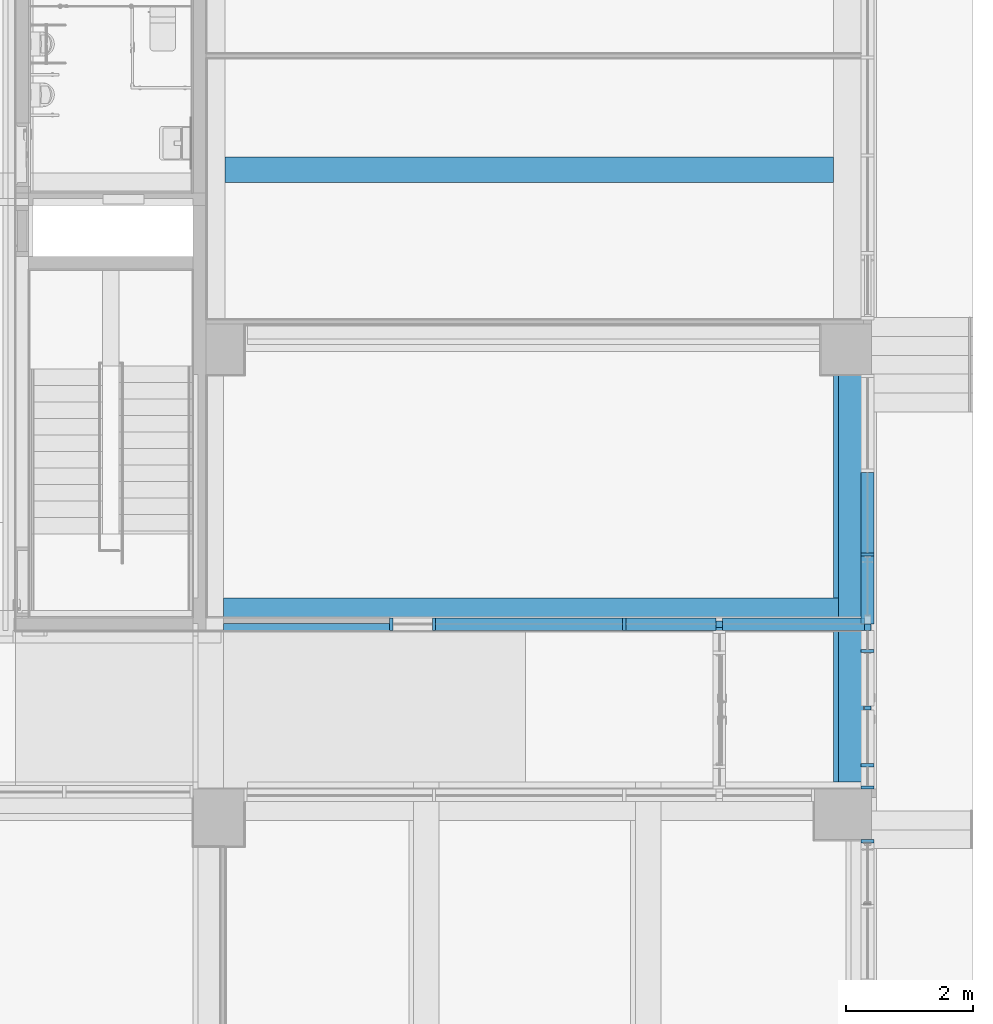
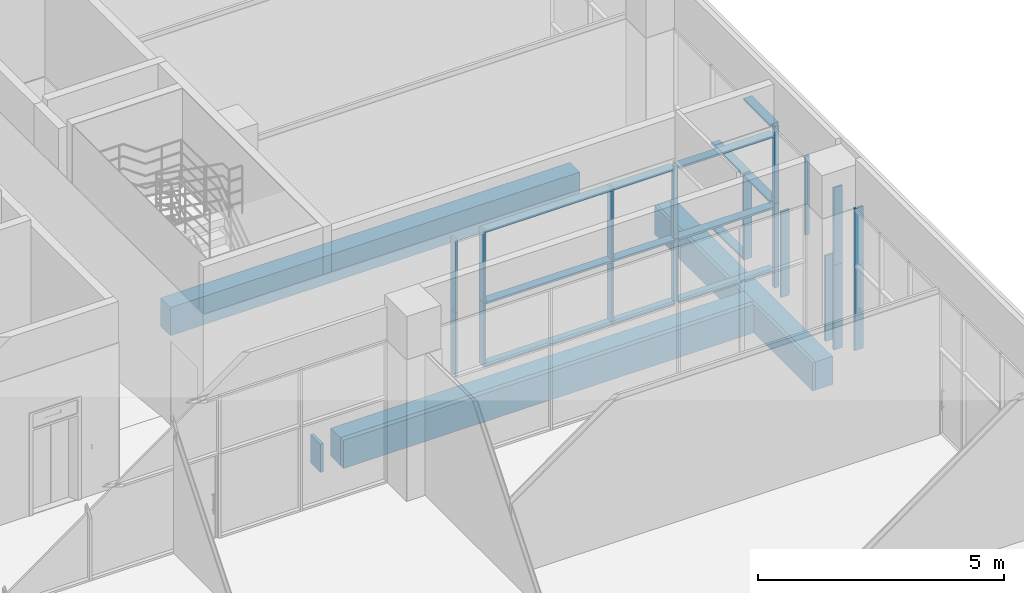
# One storey, part 13 of 100: 31 members, 5 beams, 3 elements without a shape of their own.
"""IFC2X3 building model written with IfcOpenShell, lengths in millimetres."""

from ifc_helpers import new_model, entity, si_unit, converted_unit, derived_unit, direction, frame, frame_2d, origin, origin_2d_with_axis, place, context, subcontext, project, spatial, rectangle, extrude, source, transform, mapped, material, type_object, type_shapes, element, aggregate, save


model = new_model("IFC2X3")

# Units and contexts
model_context = context("Model", 3, precision=0.01, world=origin(), true_north=direction((6.123031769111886e-17, 1.0)))
body_context = subcontext(model_context, "Body", "Model", "MODEL_VIEW")
ifc_project = project(units=[si_unit("LENGTHUNIT", "METRE", prefix="MILLI"), si_unit("AREAUNIT", "SQUARE_METRE"), si_unit("VOLUMEUNIT", "CUBIC_METRE"), converted_unit("PLANEANGLEUNIT", "DEGREE", entity("IfcRatioMeasure", 0.017453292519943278), si_unit("PLANEANGLEUNIT", "RADIAN"), dimensions=[0, 0, 0, 0, 0, 0, 0]), si_unit("MASSUNIT", "GRAM", prefix="KILO"), derived_unit("MASSDENSITYUNIT", [(si_unit("MASSUNIT", "GRAM", prefix="KILO"), 1), (si_unit("LENGTHUNIT", "METRE"), -3)]), derived_unit("MOMENTOFINERTIAUNIT", [(si_unit("LENGTHUNIT", "METRE"), 4)]), si_unit("TIMEUNIT", "SECOND"), si_unit("FREQUENCYUNIT", "HERTZ"), si_unit("THERMODYNAMICTEMPERATUREUNIT", "DEGREE_CELSIUS"), derived_unit("THERMALTRANSMITTANCEUNIT", [(si_unit("MASSUNIT", "GRAM", prefix="KILO"), 1), (si_unit("THERMODYNAMICTEMPERATUREUNIT", "KELVIN"), -1), (si_unit("TIMEUNIT", "SECOND"), -3)]), derived_unit("VOLUMETRICFLOWRATEUNIT", [(si_unit("LENGTHUNIT", "METRE"), 3), (si_unit("TIMEUNIT", "SECOND"), -1)]), derived_unit("MASSFLOWRATEUNIT", [(si_unit("MASSUNIT", "GRAM", prefix="KILO"), 1), (si_unit("TIMEUNIT", "SECOND"), -1)]), derived_unit("ROTATIONALFREQUENCYUNIT", [(si_unit("TIMEUNIT", "SECOND"), -1)]), si_unit("ELECTRICCURRENTUNIT", "AMPERE"), si_unit("ELECTRICVOLTAGEUNIT", "VOLT"), si_unit("POWERUNIT", "WATT"), si_unit("FORCEUNIT", "NEWTON", prefix="KILO"), si_unit("ILLUMINANCEUNIT", "LUX"), si_unit("LUMINOUSFLUXUNIT", "LUMEN"), si_unit("LUMINOUSINTENSITYUNIT", "CANDELA"), derived_unit("USERDEFINED", [(si_unit("MASSUNIT", "GRAM", prefix="KILO"), -1), (si_unit("LENGTHUNIT", "METRE"), -2), (si_unit("TIMEUNIT", "SECOND"), 3), (si_unit("LUMINOUSFLUXUNIT", "LUMEN"), 1)]), derived_unit("SOUNDPOWERUNIT", [(si_unit("MASSUNIT", "GRAM", prefix="KILO"), 1), (si_unit("LENGTHUNIT", "METRE"), 2), (si_unit("TIMEUNIT", "SECOND"), -3)]), derived_unit("SOUNDPRESSUREUNIT", [(si_unit("MASSUNIT", "GRAM", prefix="KILO"), 1), (si_unit("LENGTHUNIT", "METRE"), -1), (si_unit("TIMEUNIT", "SECOND"), -2)]), derived_unit("LINEARVELOCITYUNIT", [(si_unit("LENGTHUNIT", "METRE"), 1), (si_unit("TIMEUNIT", "SECOND"), -1)]), si_unit("PRESSUREUNIT", "PASCAL"), derived_unit("USERDEFINED", [(si_unit("LENGTHUNIT", "METRE"), -2), (si_unit("MASSUNIT", "GRAM", prefix="KILO"), 1), (si_unit("TIMEUNIT", "SECOND"), -2)]), derived_unit("LINEARFORCEUNIT", [(si_unit("MASSUNIT", "GRAM", prefix="KILO"), 1), (si_unit("LENGTHUNIT", "METRE"), 1), (si_unit("TIMEUNIT", "SECOND"), -2), (si_unit("LENGTHUNIT", "METRE"), -1)]), derived_unit("PLANARFORCEUNIT", [(si_unit("MASSUNIT", "GRAM", prefix="KILO"), 1), (si_unit("LENGTHUNIT", "METRE"), 1), (si_unit("TIMEUNIT", "SECOND"), -2), (si_unit("LENGTHUNIT", "METRE"), -2)])], contexts=[model_context])

# Site, building, storey
site_placement = place(None, frame((-14167.972527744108, -657.2125860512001, 0.0)))
site = spatial("IfcSite", under=ifc_project, at=site_placement, Name="Default", CompositionType="ELEMENT")
building_placement = place(site_placement, origin())
building = spatial("IfcBuilding", under=site, at=building_placement, Name="Sample Building", CompositionType="ELEMENT")
storey_placement = place(building_placement, origin())
storey = spatial("IfcBuildingStorey", under=building, at=storey_placement, Name="지상 1층", CompositionType="ELEMENT", Elevation=0.0)

# Curtain wall, member
curtain_wall_type = type_object("IfcCurtainWallType", Name="커튼월:CW112-스테인리스 스틸 커튼월", PredefinedType="NOTDEFINED")
curtain_wall_1_placement = place(storey_placement, origin())
curtain_wall_1 = element("IfcCurtainWall", 1, at=curtain_wall_1_placement, inside=storey, type_object=curtain_wall_type, Name="커튼월:CW112-스테인리스 스틸 커튼월", ObjectType="커튼월:CW112-스테인리스 스틸 커튼월")
ifc_material_1 = material(Name="<Unnamed>")
member_type_1 = type_object("IfcMemberType", Name="직사각형 멀리언:CW200-직사각형 멀리언 50x200mm", PredefinedType="MULLION", material=ifc_material_1)
shared_shape_1 = source(origin(), body_context, "Body", "SweptSolid", [
    extrude(rectangle(XDim=200.0, YDim=50.0, at=origin_2d_with_axis()), frame((-25.0, 0.0, -2100.0), z_axis=(0.0, 0.0, 1.0), x_axis=(0.0, -1.0, 0.0)), (0.0, 0.0, 1.0), 2100.0),
])
type_shapes(member_type_1, [shared_shape_1])
member_1_placement = place(curtain_wall_1_placement, frame((51405.4638289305, 12257.213038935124, 80.0), z_axis=(0.0, 0.0, -1.0), x_axis=(0.0, 1.0, 0.0)))
member_1 = element("IfcMember", 2, at=member_1_placement, type_object=member_type_1, material=ifc_material_1, Name="직사각형 멀리언:CW200-직사각형 멀리언 50x200mm", ObjectType="직사각형 멀리언:CW200-직사각형 멀리언 50x200mm", context=body_context, shape_type="MappedRepresentation", body=[
    mapped(shared_shape_1, transform((0.0, 0.0, 0.0), scale=1.0)),
])

curtain_wall_2_placement = place(storey_placement, origin())
curtain_wall_2 = element("IfcCurtainWall", 3, at=curtain_wall_2_placement, inside=storey, type_object=curtain_wall_type, Name="커튼월:CW112-스테인리스 스틸 커튼월", ObjectType="커튼월:CW112-스테인리스 스틸 커튼월")
member_type_2 = type_object("IfcMemberType", Name="직사각형 멀리언:CW200-직사각형 멀리언 50x200mm", PredefinedType="MULLION", material=ifc_material_1)
shared_shape_2 = source(origin(), body_context, "Body", "SweptSolid", [
    extrude(rectangle(XDim=200.0, YDim=50.0, at=origin_2d_with_axis()), frame((0.0, 0.0, -2100.0), z_axis=(0.0, 0.0, 1.0), x_axis=(0.0, -1.0, 0.0)), (0.0, 0.0, 1.0), 2100.0),
])
type_shapes(member_type_2, [shared_shape_2])
member_2_placement = place(curtain_wall_2_placement, frame((51405.46382893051, 16757.17771234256, -420.0), z_axis=(0.0, 0.0, -1.0), x_axis=(0.0, 1.0, 0.0)))
member_2 = element("IfcMember", 4, at=member_2_placement, type_object=member_type_2, material=ifc_material_1, Name="직사각형 멀리언:CW200-직사각형 멀리언 50x200mm", ObjectType="직사각형 멀리언:CW200-직사각형 멀리언 50x200mm", context=body_context, shape_type="MappedRepresentation", body=[
    mapped(shared_shape_2, transform((0.0, 0.0, 0.0), scale=1.0)),
])

# Member
member_type_3 = type_object("IfcMemberType", Name="직사각형 멀리언:CW200-직사각형 멀리언 50x200mm", PredefinedType="MULLION", material=ifc_material_1)
shared_shape_3 = source(origin(), body_context, "Body", "SweptSolid", [
    extrude(rectangle(XDim=200.0, YDim=50.0, at=origin_2d_with_axis()), frame((-25.0, 0.0, -1420.0), z_axis=(0.0, 0.0, 1.0), x_axis=(0.0, -1.0, 0.0)), (0.0, 0.0, 1.0), 1420.0000000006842),
])
type_shapes(member_type_3, [shared_shape_3])
member_3_placement = place(curtain_wall_1_placement, frame((51405.4638289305, 12257.213038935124, 2180.0), z_axis=(0.0, 0.0, -1.0), x_axis=(0.0, 1.0, 0.0)))
member_3 = element("IfcMember", 5, at=member_3_placement, type_object=member_type_3, material=ifc_material_1, Name="직사각형 멀리언:CW200-직사각형 멀리언 50x200mm", ObjectType="직사각형 멀리언:CW200-직사각형 멀리언 50x200mm", context=body_context, shape_type="MappedRepresentation", body=[
    mapped(shared_shape_3, transform((0.0, 0.0, 0.0), scale=1.0)),
])

aggregate(curtain_wall_1, [member_1, member_3])

member_type_4 = type_object("IfcMemberType", Name="직사각형 멀리언:CW200-직사각형 멀리언 50x200mm", PredefinedType="MULLION", material=ifc_material_1)
shared_shape_4 = source(origin(), body_context, "Body", "SweptSolid", [
    extrude(rectangle(XDim=200.0, YDim=50.0, at=origin_2d_with_axis()), frame((-25.0, 0.0, -2100.0), z_axis=(0.0, 0.0, 1.0), x_axis=(0.0, -1.0, 0.0)), (0.0, 0.0, 1.0), 2099.9999999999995),
])
type_shapes(member_type_4, [shared_shape_4])
member_4_placement = place(curtain_wall_2_placement, frame((51405.46379814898, 13057.212383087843, 1680.0), z_axis=(0.0, 0.0, 1.0), x_axis=(0.0, -1.0, 0.0)))
member_4 = element("IfcMember", 6, at=member_4_placement, type_object=member_type_4, material=ifc_material_1, Name="직사각형 멀리언:CW200-직사각형 멀리언 50x200mm", ObjectType="직사각형 멀리언:CW200-직사각형 멀리언 50x200mm", context=body_context, shape_type="MappedRepresentation", body=[
    mapped(shared_shape_4, transform((0.0, 0.0, 0.0), scale=1.0)),
])

member_type_5 = type_object("IfcMemberType", Name="직사각형 멀리언:CW200-직사각형 멀리언 50x200mm", PredefinedType="MULLION", material=ifc_material_1)
shared_shape_5 = source(origin(), body_context, "Body", "SweptSolid", [
    extrude(rectangle(XDim=200.0, YDim=50.0, at=origin_2d_with_axis()), frame((-25.0, 0.0, -1075.0), z_axis=(0.0, 0.0, 1.0), x_axis=(0.0, -1.0, 0.0)), (0.0, 0.0, 1.0), 1074.9999999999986),
])
type_shapes(member_type_5, [shared_shape_5])
member_5_placement = place(curtain_wall_2_placement, frame((51405.46382893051, 16732.17771234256, 3600.0), z_axis=(0.0, 1.0, 0.0), x_axis=(0.0, 0.0, 1.0)))
member_5 = element("IfcMember", 7, at=member_5_placement, type_object=member_type_5, material=ifc_material_1, Name="직사각형 멀리언:CW200-직사각형 멀리언 50x200mm", ObjectType="직사각형 멀리언:CW200-직사각형 멀리언 50x200mm", context=body_context, shape_type="MappedRepresentation", body=[
    mapped(shared_shape_5, transform((0.0, 0.0, 0.0), scale=1.0)),
])

member_type_6 = type_object("IfcMemberType", Name="직사각형 멀리언:CW200-직사각형 멀리언 50x200mm", PredefinedType="MULLION", material=ifc_material_1)
shared_shape_6 = source(origin(), body_context, "Body", "SweptSolid", [
    extrude(rectangle(XDim=200.0, YDim=50.0, at=origin_2d_with_axis()), frame((0.0, 0.0, -1075.0), z_axis=(0.0, 0.0, 1.0), x_axis=(0.0, -1.0, 0.0)), (0.0, 0.0, 1.0), 1074.9999999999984),
])
type_shapes(member_type_6, [shared_shape_6])
member_6_placement = place(curtain_wall_2_placement, frame((51405.46382893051, 16732.17771234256, 1680.0), z_axis=(0.0, 1.0, 0.0), x_axis=(0.0, 0.0, 1.0)))
member_6 = element("IfcMember", 8, at=member_6_placement, type_object=member_type_6, material=ifc_material_1, Name="직사각형 멀리언:CW200-직사각형 멀리언 50x200mm", ObjectType="직사각형 멀리언:CW200-직사각형 멀리언 50x200mm", context=body_context, shape_type="MappedRepresentation", body=[
    mapped(shared_shape_6, transform((0.0, 0.0, 0.0), scale=1.0)),
])

member_type_7 = type_object("IfcMemberType", Name="직사각형 멀리언:CW200-직사각형 멀리언 50x200mm", PredefinedType="MULLION", material=ifc_material_1)
shared_shape_7 = source(origin(), body_context, "Body", "SweptSolid", [
    extrude(rectangle(XDim=200.0, YDim=50.0, at=origin_2d_with_axis()), frame((-25.0, 0.0, -1920.0), z_axis=(0.0, 0.0, 1.0), x_axis=(0.0, -1.0, 0.0)), (0.0, 0.0, 1.0), 1920.0000000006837),
])
type_shapes(member_type_7, [shared_shape_7])
member_7_placement = place(curtain_wall_2_placement, frame((51405.46382893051, 13057.212383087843, 3600.0), z_axis=(0.0, 0.0, 1.0), x_axis=(0.0, -1.0, 0.0)))
member_7 = element("IfcMember", 9, at=member_7_placement, type_object=member_type_7, material=ifc_material_1, Name="직사각형 멀리언:CW200-직사각형 멀리언 50x200mm", ObjectType="직사각형 멀리언:CW200-직사각형 멀리언 50x200mm", context=body_context, shape_type="MappedRepresentation", body=[
    mapped(shared_shape_7, transform((0.0, 0.0, 0.0), scale=1.0)),
])

member_type_8 = type_object("IfcMemberType", Name="직사각형 멀리언:CW200-직사각형 멀리언 50x200mm", PredefinedType="MULLION", material=ifc_material_1)
shared_shape_8 = source(origin(), body_context, "Body", "SweptSolid", [
    extrude(rectangle(XDim=200.0, YDim=50.0, at=origin_2d_with_axis()), frame((0.0, 0.0, -2125.0), z_axis=(0.0, 0.0, 1.0), x_axis=(0.0, -1.0, 0.0)), (0.0, 0.0, 1.0), 2125.0),
])
type_shapes(member_type_8, [shared_shape_8])
member_8_placement = place(curtain_wall_2_placement, frame((51405.46382893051, 13432.212383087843, -420.0), z_axis=(0.0, 0.0, -1.0), x_axis=(0.0, 1.0, 0.0)))
member_8 = element("IfcMember", 10, at=member_8_placement, type_object=member_type_8, material=ifc_material_1, Name="직사각형 멀리언:CW200-직사각형 멀리언 50x200mm", ObjectType="직사각형 멀리언:CW200-직사각형 멀리언 50x200mm", context=body_context, shape_type="MappedRepresentation", body=[
    mapped(shared_shape_8, transform((0.0, 0.0, 0.0), scale=1.0)),
])

member_9_placement = place(curtain_wall_2_placement, frame((51405.46382893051, 15232.212383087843, -420.0), z_axis=(0.0, 0.0, -1.0), x_axis=(0.0, 1.0, 0.0)))
member_9 = element("IfcMember", 11, at=member_9_placement, type_object=member_type_8, material=ifc_material_1, Name="직사각형 멀리언:CW200-직사각형 멀리언 50x200mm", ObjectType="직사각형 멀리언:CW200-직사각형 멀리언 50x200mm", context=body_context, shape_type="MappedRepresentation", body=[
    mapped(shared_shape_8, transform((0.0, 0.0, 0.0), scale=1.0)),
])

member_type_9 = type_object("IfcMemberType", Name="직사각형 멀리언:CW200-직사각형 멀리언 100 x 100mm", PredefinedType="MULLION", material=ifc_material_1)
shared_shape_9 = source(origin(), body_context, "Body", "SweptSolid", [
    extrude(rectangle(XDim=100.0, YDim=100.0, at=origin_2d_with_axis()), frame((0.0, 0.0, -2100.0), z_axis=(0.0, 0.0, 1.0), x_axis=(0.0, -1.0, 0.0)), (0.0, 0.0, 1.0), 2100.0),
])
type_shapes(member_type_9, [shared_shape_9])
member_10_placement = place(curtain_wall_2_placement, frame((51405.46382893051, 15607.177712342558, -420.0), z_axis=(0.0, 0.0, -1.0), x_axis=(0.0, 1.0, 0.0)))
member_10 = element("IfcMember", 12, at=member_10_placement, type_object=member_type_9, material=ifc_material_1, Name="직사각형 멀리언:CW200-직사각형 멀리언 100 x 100mm", ObjectType="직사각형 멀리언:CW200-직사각형 멀리언 100 x 100mm", context=body_context, shape_type="MappedRepresentation", body=[
    mapped(shared_shape_9, transform((0.0, 0.0, 0.0), scale=1.0)),
])

member_type_10 = type_object("IfcMemberType", Name="직사각형 멀리언:CW200-직사각형 멀리언 50x200mm", PredefinedType="MULLION", material=ifc_material_1)
shared_shape_10 = source(origin(), body_context, "Body", "SweptSolid", [
    extrude(rectangle(XDim=200.0, YDim=50.0, at=origin_2d_with_axis()), frame((-25.0, 0.0, -1270.0), z_axis=(0.0, 0.0, 1.0), x_axis=(0.0, -1.0, 0.0)), (0.0, 0.0, 1.0), 1269.9999999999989),
])
type_shapes(member_type_10, [shared_shape_10])
member_11_placement = place(curtain_wall_2_placement, frame((51405.46382893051, 16782.17771234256, -420.0), z_axis=(0.0, -1.0, 0.0), x_axis=(0.0, 0.0, -1.0)))
member_11 = element("IfcMember", 13, at=member_11_placement, type_object=member_type_10, material=ifc_material_1, Name="직사각형 멀리언:CW200-직사각형 멀리언 50x200mm", ObjectType="직사각형 멀리언:CW200-직사각형 멀리언 50x200mm", context=body_context, shape_type="MappedRepresentation", body=[
    mapped(shared_shape_10, transform((0.0, 0.0, 0.0), scale=1.0)),
])

member_type_11 = type_object("IfcMemberType", Name="직사각형 멀리언:CW200-직사각형 멀리언 50x200mm", PredefinedType="MULLION", material=ifc_material_1)
shared_shape_11 = source(origin(), body_context, "Body", "SweptSolid", [
    extrude(rectangle(XDim=200.0, YDim=50.0, at=origin_2d_with_axis()), frame((0.0, 0.0, -1270.0), z_axis=(0.0, 0.0, 1.0), x_axis=(0.0, -1.0, 0.0)), (0.0, 0.0, 1.0), 1269.9999999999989),
])
type_shapes(member_type_11, [shared_shape_11])
member_12_placement = place(curtain_wall_2_placement, frame((51405.46382893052, 18052.177712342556, 1680.0), z_axis=(0.0, 1.0, 0.0), x_axis=(0.0, 0.0, 1.0)))
member_12 = element("IfcMember", 14, at=member_12_placement, type_object=member_type_11, material=ifc_material_1, Name="직사각형 멀리언:CW200-직사각형 멀리언 50x200mm", ObjectType="직사각형 멀리언:CW200-직사각형 멀리언 50x200mm", context=body_context, shape_type="MappedRepresentation", body=[
    mapped(shared_shape_11, transform((0.0, 0.0, 0.0), scale=1.0)),
])

member_type_12 = type_object("IfcMemberType", Name="직사각형 멀리언:CW200-직사각형 멀리언 60 x 100mm", PredefinedType="MULLION", material=ifc_material_1)
shared_shape_12 = source(origin(), body_context, "Body", "SweptSolid", [
    extrude(rectangle(XDim=100.0, YDim=60.0, at=origin_2d_with_axis()), frame((0.0, 0.0, -1945.0), z_axis=(0.0, 0.0, 1.0), x_axis=(0.0, -1.0, 0.0)), (0.0, 0.0, 1.0), 1945.000000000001),
])
type_shapes(member_type_12, [shared_shape_12])
member_13_placement = place(curtain_wall_2_placement, frame((51405.46382893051, 14332.212383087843, 1655.0), z_axis=(0.0, 0.0, -1.0), x_axis=(0.0, 1.0, 0.0)))
member_13 = element("IfcMember", 15, at=member_13_placement, type_object=member_type_12, material=ifc_material_1, Name="직사각형 멀리언:CW200-직사각형 멀리언 60 x 100mm", ObjectType="직사각형 멀리언:CW200-직사각형 멀리언 60 x 100mm", context=body_context, shape_type="MappedRepresentation", body=[
    mapped(shared_shape_12, transform((0.0, 0.0, 0.0), scale=1.0)),
])

member_type_13 = type_object("IfcMemberType", Name="직사각형 멀리언:CW200-직사각형 멀리언 100 x 100mm", PredefinedType="MULLION", material=ifc_material_1)
shared_shape_13 = source(origin(), body_context, "Body", "SweptSolid", [
    extrude(rectangle(XDim=100.0, YDim=100.0, at=origin_2d_with_axis()), frame((0.0, 0.0, -1920.0), z_axis=(0.0, 0.0, 1.0), x_axis=(0.0, -1.0, 0.0)), (0.0, 0.0, 1.0), 1920.0000000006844),
])
type_shapes(member_type_13, [shared_shape_13])
member_14_placement = place(curtain_wall_2_placement, frame((51405.46382893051, 15607.177712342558, 1680.0), z_axis=(0.0, 0.0, -1.0), x_axis=(0.0, 1.0, 0.0)))
member_14 = element("IfcMember", 16, at=member_14_placement, type_object=member_type_13, material=ifc_material_1, Name="직사각형 멀리언:CW200-직사각형 멀리언 100 x 100mm", ObjectType="직사각형 멀리언:CW200-직사각형 멀리언 100 x 100mm", context=body_context, shape_type="MappedRepresentation", body=[
    mapped(shared_shape_13, transform((0.0, 0.0, 0.0), scale=1.0)),
])

aggregate(curtain_wall_2, [member_7, member_8, member_9, member_10, member_5, member_11, member_2, member_4, member_6, member_12, member_13, member_14])

# Curtain wall, members
curtain_wall_3_placement = place(storey_placement, origin())
curtain_wall_3 = element("IfcCurtainWall", 17, at=curtain_wall_3_placement, inside=storey, type_object=curtain_wall_type, Name="커튼월:CW112-스테인리스 스틸 커튼월", ObjectType="커튼월:CW112-스테인리스 스틸 커튼월")
member_type_14 = type_object("IfcMemberType", Name="직사각형 멀리언:CW200-직사각형 멀리언 50x200mm", PredefinedType="MULLION", material=ifc_material_1)
shared_shape_14 = source(origin(), body_context, "Body", "SweptSolid", [
    extrude(rectangle(XDim=200.0, YDim=50.0, at=origin_2d_with_axis()), frame((-25.0, 0.0, -2950.0), z_axis=(0.0, 0.0, 1.0), x_axis=(0.0, -1.0, 0.0)), (0.0, 0.0, 1.0), 2950.0000000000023),
])
type_shapes(member_type_14, [shared_shape_14])
member_15_placement = place(curtain_wall_3_placement, frame((44592.972491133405, 15657.19487839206, 3380.0), z_axis=(-1.0, 0.0, 0.0), x_axis=(0.0, 0.0, 1.0)))
member_15 = element("IfcMember", 18, at=member_15_placement, type_object=member_type_14, material=ifc_material_1, Name="직사각형 멀리언:CW200-직사각형 멀리언 50x200mm", ObjectType="직사각형 멀리언:CW200-직사각형 멀리언 50x200mm", context=body_context, shape_type="MappedRepresentation", body=[
    mapped(shared_shape_14, transform((0.0, 0.0, 0.0), scale=1.0)),
])
member_type_15 = type_object("IfcMemberType", Name="직사각형 멀리언:CW200-직사각형 멀리언 50x200mm", PredefinedType="MULLION", material=ifc_material_1)
shared_shape_15 = source(origin(), body_context, "Body", "SweptSolid", [
    extrude(rectangle(XDim=200.0, YDim=50.0, at=origin_2d_with_axis()), frame((-25.0, 0.0, -1425.0), z_axis=(0.0, 0.0, 1.0), x_axis=(0.0, -1.0, 0.0)), (0.0, 0.0, 1.0), 1424.9999999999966),
])
type_shapes(member_type_15, [shared_shape_15])
member_16_placement = place(curtain_wall_3_placement, frame((47592.972491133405, 15657.194878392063, 3380.0), z_axis=(-1.0, 0.0, 0.0), x_axis=(0.0, 0.0, 1.0)))
member_16 = element("IfcMember", 19, at=member_16_placement, type_object=member_type_15, material=ifc_material_1, Name="직사각형 멀리언:CW200-직사각형 멀리언 50x200mm", ObjectType="직사각형 멀리언:CW200-직사각형 멀리언 50x200mm", context=body_context, shape_type="MappedRepresentation", body=[
    mapped(shared_shape_15, transform((0.0, 0.0, 0.0), scale=1.0)),
])
member_type_16 = type_object("IfcMemberType", Name="직사각형 멀리언:CW200-직사각형 멀리언 50x200mm", PredefinedType="MULLION", material=ifc_material_1)
shared_shape_16 = source(origin(), body_context, "Body", "SweptSolid", [
    extrude(rectangle(XDim=200.0, YDim=50.0, at=origin_2d_with_axis()), frame((0.0, 0.0, -1425.0), z_axis=(0.0, 0.0, 1.0), x_axis=(0.0, -1.0, 0.0)), (0.0, 0.0, 1.0), 1424.9999999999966),
])
type_shapes(member_type_16, [shared_shape_16])
member_17_placement = place(curtain_wall_3_placement, frame((47592.972491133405, 15657.194878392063, 1580.0), z_axis=(-1.0, 0.0, 0.0), x_axis=(0.0, 0.0, 1.0)))
member_17 = element("IfcMember", 20, at=member_17_placement, type_object=member_type_16, material=ifc_material_1, Name="직사각형 멀리언:CW200-직사각형 멀리언 50x200mm", ObjectType="직사각형 멀리언:CW200-직사각형 멀리언 50x200mm", context=body_context, shape_type="MappedRepresentation", body=[
    mapped(shared_shape_16, transform((0.0, 0.0, 0.0), scale=1.0)),
])
member_type_17 = type_object("IfcMemberType", Name="직사각형 멀리언:CW200-직사각형 멀리언 50x200mm", PredefinedType="MULLION", material=ifc_material_1)
shared_shape_17 = source(origin(), body_context, "Body", "SweptSolid", [
    extrude(rectangle(XDim=200.0, YDim=50.0, at=origin_2d_with_axis()), frame((0.0, 0.0, -2950.0), z_axis=(0.0, 0.0, 1.0), x_axis=(0.0, -1.0, 0.0)), (0.0, 0.0, 1.0), 2950.0000000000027),
])
type_shapes(member_type_17, [shared_shape_17])
member_18_placement = place(curtain_wall_3_placement, frame((44592.972491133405, 15657.19487839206, 1580.0), z_axis=(-1.0, 0.0, 0.0), x_axis=(0.0, 0.0, 1.0)))
member_18 = element("IfcMember", 21, at=member_18_placement, type_object=member_type_17, material=ifc_material_1, Name="직사각형 멀리언:CW200-직사각형 멀리언 50x200mm", ObjectType="직사각형 멀리언:CW200-직사각형 멀리언 50x200mm", context=body_context, shape_type="MappedRepresentation", body=[
    mapped(shared_shape_17, transform((0.0, 0.0, 0.0), scale=1.0)),
])
member_type_18 = type_object("IfcMemberType", Name="직사각형 멀리언:CW200-직사각형 멀리언 50x200mm", PredefinedType="MULLION", material=ifc_material_1)
shared_shape_18 = source(origin(), body_context, "Body", "SweptSolid", [
    extrude(rectangle(XDim=200.0, YDim=50.0, at=origin_2d_with_axis()), frame((-25.0, 0.0, -2950.0), z_axis=(0.0, 0.0, 1.0), x_axis=(0.0, -1.0, 0.0)), (0.0, 0.0, 1.0), 2950.0000000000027),
])
type_shapes(member_type_18, [shared_shape_18])
member_19_placement = place(curtain_wall_3_placement, frame((47542.9724911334, 15657.194878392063, 0.0), z_axis=(1.0, 0.0, 0.0), x_axis=(0.0, 0.0, -1.0)))
member_19 = element("IfcMember", 22, at=member_19_placement, type_object=member_type_18, material=ifc_material_1, Name="직사각형 멀리언:CW200-직사각형 멀리언 50x200mm", ObjectType="직사각형 멀리언:CW200-직사각형 멀리언 50x200mm", context=body_context, shape_type="MappedRepresentation", body=[
    mapped(shared_shape_18, transform((0.0, 0.0, 0.0), scale=1.0)),
])
member_type_19 = type_object("IfcMemberType", Name="직사각형 멀리언:CW200-직사각형 멀리언 50x200mm", PredefinedType="MULLION", material=ifc_material_1)
shared_shape_19 = source(origin(), body_context, "Body", "SweptSolid", [
    extrude(rectangle(XDim=200.0, YDim=50.0, at=origin_2d_with_axis()), frame((-25.0, 0.0, -1425.0), z_axis=(0.0, 0.0, 1.0), x_axis=(0.0, -1.0, 0.0)), (0.0, 0.0, 1.0), 1424.9999999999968),
])
type_shapes(member_type_19, [shared_shape_19])
member_20_placement = place(curtain_wall_3_placement, frame((49017.9724911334, 15657.194878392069, 0.0), z_axis=(1.0, 0.0, 0.0), x_axis=(0.0, 0.0, -1.0)))
member_20 = element("IfcMember", 23, at=member_20_placement, type_object=member_type_19, material=ifc_material_1, Name="직사각형 멀리언:CW200-직사각형 멀리언 50x200mm", ObjectType="직사각형 멀리언:CW200-직사각형 멀리언 50x200mm", context=body_context, shape_type="MappedRepresentation", body=[
    mapped(shared_shape_19, transform((0.0, 0.0, 0.0), scale=1.0)),
])
member_type_20 = type_object("IfcMemberType", Name="직사각형 멀리언:CW200-직사각형 멀리언 50x200mm", PredefinedType="MULLION", material=ifc_material_1)
shared_shape_20 = source(origin(), body_context, "Body", "SweptSolid", [
    extrude(rectangle(XDim=200.0, YDim=50.0, at=origin_2d_with_axis()), frame((-25.0, 0.0, -1580.0), z_axis=(0.0, 0.0, 1.0), x_axis=(0.0, -1.0, 0.0)), (0.0, 0.0, 1.0), 1580.0),
])
type_shapes(member_type_20, [shared_shape_20])
member_21_placement = place(curtain_wall_3_placement, frame((43867.97249113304, 15657.194878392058, 0.0), z_axis=(0.0, 0.0, -1.0), x_axis=(-1.0, 0.0, 0.0)))
member_21 = element("IfcMember", 24, at=member_21_placement, type_object=member_type_20, material=ifc_material_1, Name="직사각형 멀리언:CW200-직사각형 멀리언 50x200mm", ObjectType="직사각형 멀리언:CW200-직사각형 멀리언 50x200mm", context=body_context, shape_type="MappedRepresentation", body=[
    mapped(shared_shape_20, transform((0.0, 0.0, 0.0), scale=1.0)),
])
member_type_21 = type_object("IfcMemberType", Name="직사각형 멀리언:CW200-직사각형 멀리언 50x200mm", PredefinedType="MULLION", material=ifc_material_1)
shared_shape_21 = source(origin(), body_context, "Body", "SweptSolid", [
    extrude(rectangle(XDim=200.0, YDim=50.0, at=origin_2d_with_axis()), frame((-25.0, 0.0, -1800.0), z_axis=(0.0, 0.0, 1.0), x_axis=(0.0, -1.0, 0.0)), (0.0, 0.0, 1.0), 1799.9999999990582),
])
type_shapes(member_type_21, [shared_shape_21])
member_22_placement = place(curtain_wall_3_placement, frame((43867.97249113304, 15657.194878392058, 1580.0), z_axis=(0.0, 0.0, -1.0), x_axis=(-1.0, 0.0, 0.0)))
member_22 = element("IfcMember", 25, at=member_22_placement, type_object=member_type_21, material=ifc_material_1, Name="직사각형 멀리언:CW200-직사각형 멀리언 50x200mm", ObjectType="직사각형 멀리언:CW200-직사각형 멀리언 50x200mm", context=body_context, shape_type="MappedRepresentation", body=[
    mapped(shared_shape_21, transform((0.0, 0.0, 0.0), scale=1.0)),
])
member_type_22 = type_object("IfcMemberType", Name="직사각형 멀리언:CW200-직사각형 멀리언 50x200mm", PredefinedType="MULLION", material=ifc_material_1)
shared_shape_22 = source(origin(), body_context, "Body", "SweptSolid", [
    extrude(rectangle(XDim=200.0, YDim=50.0, at=origin_2d_with_axis()), frame((0.0, 0.0, -2237.4913377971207), z_axis=(0.0, 0.0, 1.0), x_axis=(0.0, -1.0, 0.0)), (0.0, 0.0, 1.0), 2237.4913377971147),
])
type_shapes(member_type_22, [shared_shape_22])
member_23_placement = place(curtain_wall_3_placement, frame((49117.9724911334, 15657.194878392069, 1580.0), z_axis=(-1.0, 0.0, 0.0), x_axis=(0.0, 0.0, 1.0)))
member_23 = element("IfcMember", 26, at=member_23_placement, type_object=member_type_22, material=ifc_material_1, Name="직사각형 멀리언:CW200-직사각형 멀리언 50x200mm", ObjectType="직사각형 멀리언:CW200-직사각형 멀리언 50x200mm", context=body_context, shape_type="MappedRepresentation", body=[
    mapped(shared_shape_22, transform((0.0, 0.0, 0.0), scale=1.0)),
])
member_type_23 = type_object("IfcMemberType", Name="직사각형 멀리언:CW200-직사각형 멀리언 50x200mm", PredefinedType="MULLION", material=ifc_material_1)
shared_shape_23 = source(origin(), body_context, "Body", "SweptSolid", [
    extrude(rectangle(XDim=200.0, YDim=50.0, at=origin_2d_with_axis()), frame((0.0, 0.0, -1580.0), z_axis=(0.0, 0.0, 1.0), x_axis=(0.0, -1.0, 0.0)), (0.0, 0.0, 1.0), 1580.0),
])
type_shapes(member_type_23, [shared_shape_23])
member_24_placement = place(curtain_wall_3_placement, frame((44567.9724911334, 15657.19487839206, 0.0), z_axis=(0.0, 0.0, -1.0), x_axis=(-1.0, 0.0, 0.0)))
member_24 = element("IfcMember", 27, at=member_24_placement, type_object=member_type_23, material=ifc_material_1, Name="직사각형 멀리언:CW200-직사각형 멀리언 50x200mm", ObjectType="직사각형 멀리언:CW200-직사각형 멀리언 50x200mm", context=body_context, shape_type="MappedRepresentation", body=[
    mapped(shared_shape_23, transform((0.0, 0.0, 0.0), scale=1.0)),
])
member_25_placement = place(curtain_wall_3_placement, frame((47567.972491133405, 15657.194878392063, 0.0), z_axis=(0.0, 0.0, -1.0), x_axis=(-1.0, 0.0, 0.0)))
member_25 = element("IfcMember", 28, at=member_25_placement, type_object=member_type_23, material=ifc_material_1, Name="직사각형 멀리언:CW200-직사각형 멀리언 50x200mm", ObjectType="직사각형 멀리언:CW200-직사각형 멀리언 50x200mm", context=body_context, shape_type="MappedRepresentation", body=[
    mapped(shared_shape_23, transform((0.0, 0.0, 0.0), scale=1.0)),
])
member_type_24 = type_object("IfcMemberType", Name="직사각형 멀리언:CW200-직사각형 멀리언 50x200mm", PredefinedType="MULLION", material=ifc_material_1)
shared_shape_24 = source(origin(), body_context, "Body", "SweptSolid", [
    extrude(rectangle(XDim=200.0, YDim=50.0, at=origin_2d_with_axis()), frame((0.0, 0.0, -1800.0), z_axis=(0.0, 0.0, 1.0), x_axis=(0.0, -1.0, 0.0)), (0.0, 0.0, 1.0), 1799.9999999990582),
])
type_shapes(member_type_24, [shared_shape_24])
member_26_placement = place(curtain_wall_3_placement, frame((44567.9724911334, 15657.19487839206, 1580.0), z_axis=(0.0, 0.0, -1.0), x_axis=(-1.0, 0.0, 0.0)))
member_26 = element("IfcMember", 29, at=member_26_placement, type_object=member_type_24, material=ifc_material_1, Name="직사각형 멀리언:CW200-직사각형 멀리언 50x200mm", ObjectType="직사각형 멀리언:CW200-직사각형 멀리언 50x200mm", context=body_context, shape_type="MappedRepresentation", body=[
    mapped(shared_shape_24, transform((0.0, 0.0, 0.0), scale=1.0)),
])
member_27_placement = place(curtain_wall_3_placement, frame((47567.972491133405, 15657.194878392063, 1580.0), z_axis=(0.0, 0.0, -1.0), x_axis=(-1.0, 0.0, 0.0)))
member_27 = element("IfcMember", 30, at=member_27_placement, type_object=member_type_24, material=ifc_material_1, Name="직사각형 멀리언:CW200-직사각형 멀리언 50x200mm", ObjectType="직사각형 멀리언:CW200-직사각형 멀리언 50x200mm", context=body_context, shape_type="MappedRepresentation", body=[
    mapped(shared_shape_24, transform((0.0, 0.0, 0.0), scale=1.0)),
])
member_type_25 = type_object("IfcMemberType", Name="직사각형 멀리언:CW200-직사각형 멀리언 50x200mm", PredefinedType="MULLION", material=ifc_material_1)
shared_shape_25 = source(origin(), body_context, "Body", "SweptSolid", [
    extrude(rectangle(XDim=200.0, YDim=50.0, at=origin_2d_with_axis()), frame((-25.0, 0.0, -2237.4913377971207), z_axis=(0.0, 0.0, 1.0), x_axis=(0.0, -1.0, 0.0)), (0.0, 0.0, 1.0), 2237.4913377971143),
])
type_shapes(member_type_25, [shared_shape_25])
member_28_placement = place(curtain_wall_3_placement, frame((49117.9724911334, 15657.194878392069, 3380.0), z_axis=(-1.0, 0.0, 0.0), x_axis=(0.0, 0.0, 1.0)))
member_28 = element("IfcMember", 31, at=member_28_placement, type_object=member_type_25, material=ifc_material_1, Name="직사각형 멀리언:CW200-직사각형 멀리언 50x200mm", ObjectType="직사각형 멀리언:CW200-직사각형 멀리언 50x200mm", context=body_context, shape_type="MappedRepresentation", body=[
    mapped(shared_shape_25, transform((0.0, 0.0, 0.0), scale=1.0)),
])
member_type_26 = type_object("IfcMemberType", Name="직사각형 멀리언:CW200-직사각형 멀리언 100 x 100mm", PredefinedType="MULLION", material=ifc_material_1)
shared_shape_26 = source(origin(), body_context, "Body", "SweptSolid", [
    extrude(rectangle(XDim=100.0, YDim=100.0, at=origin_2d_with_axis()), frame((0.0, 0.0, -1580.0), z_axis=(0.0, 0.0, 1.0), x_axis=(0.0, -1.0, 0.0)), (0.0, 0.0, 1.0), 1580.0),
])
type_shapes(member_type_26, [shared_shape_26])
member_29_placement = place(curtain_wall_3_placement, frame((49067.9724911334, 15657.194878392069, 0.0), z_axis=(0.0, 0.0, -1.0), x_axis=(-1.0, 0.0, 0.0)))
member_29 = element("IfcMember", 32, at=member_29_placement, type_object=member_type_26, material=ifc_material_1, Name="직사각형 멀리언:CW200-직사각형 멀리언 100 x 100mm", ObjectType="직사각형 멀리언:CW200-직사각형 멀리언 100 x 100mm", context=body_context, shape_type="MappedRepresentation", body=[
    mapped(shared_shape_26, transform((0.0, 0.0, 0.0), scale=1.0)),
])
member_type_27 = type_object("IfcMemberType", Name="직사각형 멀리언:CW200-직사각형 멀리언 100 x 100mm", PredefinedType="MULLION", material=ifc_material_1)
shared_shape_27 = source(origin(), body_context, "Body", "SweptSolid", [
    extrude(rectangle(XDim=100.0, YDim=100.0, at=origin_2d_with_axis()), frame((0.0, 0.0, -1800.0), z_axis=(0.0, 0.0, 1.0), x_axis=(0.0, -1.0, 0.0)), (0.0, 0.0, 1.0), 1799.9999999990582),
])
type_shapes(member_type_27, [shared_shape_27])
member_30_placement = place(curtain_wall_3_placement, frame((49067.9724911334, 15657.194878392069, 1580.0), z_axis=(0.0, 0.0, -1.0), x_axis=(-1.0, 0.0, 0.0)))
member_30 = element("IfcMember", 33, at=member_30_placement, type_object=member_type_27, material=ifc_material_1, Name="직사각형 멀리언:CW200-직사각형 멀리언 100 x 100mm", ObjectType="직사각형 멀리언:CW200-직사각형 멀리언 100 x 100mm", context=body_context, shape_type="MappedRepresentation", body=[
    mapped(shared_shape_27, transform((0.0, 0.0, 0.0), scale=1.0)),
])
member_type_28 = type_object("IfcMemberType", Name="직사각형 멀리언:CW200-직사각형 멀리언 50x200mm", PredefinedType="MULLION", material=ifc_material_1)
shared_shape_28 = source(origin(), body_context, "Body", "SweptSolid", [
    extrude(rectangle(XDim=200.0, YDim=50.0, at=origin_2d_with_axis()), frame((-25.0, 0.0, -2237.491337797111), z_axis=(0.0, 0.0, 1.0), x_axis=(0.0, -1.0, 0.0)), (0.0, 0.0, 1.0), 2237.4913377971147),
])
type_shapes(member_type_28, [shared_shape_28])
member_31_placement = place(curtain_wall_3_placement, frame((51355.463828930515, 15657.194878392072, 0.0), z_axis=(1.0, 0.0, 0.0), x_axis=(0.0, 0.0, -1.0)))
member_31 = element("IfcMember", 34, at=member_31_placement, type_object=member_type_28, material=ifc_material_1, Name="직사각형 멀리언:CW200-직사각형 멀리언 50x200mm", ObjectType="직사각형 멀리언:CW200-직사각형 멀리언 50x200mm", context=body_context, shape_type="MappedRepresentation", body=[
    mapped(shared_shape_28, transform((0.0, 0.0, 0.0), scale=1.0)),
])
aggregate(curtain_wall_3, [member_21, member_22, member_23, member_15, member_24, member_26, member_16, member_18, member_25, member_27, member_28, member_17, member_29, member_30, member_31, member_19, member_20])

# Beams
ifc_material_2 = material(Name="KBIMS-콘크리트")
beam_type_1 = type_object("IfcBeamType", Name="BM111-철근콘크리트구조 보:BM110-철근 콘크리트구조 보_400 x 850_B1-1G4", PredefinedType="NOTDEFINED")
beam_1_placement = place(storey_placement, frame((51143.262415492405, 12921.077049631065, 0.0), z_axis=(0.0, 0.0, 1.0), x_axis=(0.0, 1.0, 0.0)))
element("IfcBeam", 35, at=beam_1_placement, inside=storey, type_object=beam_type_1, material=ifc_material_2, Name="BM111-철근콘크리트구조 보:BM110-철근 콘크리트구조 보_400 x 850_B1-1G4", ObjectType="BM111-철근콘크리트구조 보:BM110-철근 콘크리트구조 보_400 x 850_B1-1G4", context=body_context, shape_type="SweptSolid", body=[
    extrude(rectangle(XDim=700.0000000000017, YDim=400.000000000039, at=frame_2d((0.0, -3.0325963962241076e-11), x_axis=(1.0, 0.0))), frame((250.0, 0.0, -1000.0), z_axis=(1.0, 0.0, 0.0), x_axis=(0.0, 0.0, -1.0)), (0.0, 0.0, 1.0), 6423.500032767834),
])
beam_type_2 = type_object("IfcBeamType", Name="BM111-철근콘크리트구조 보:BM110-철근 콘크리트구조 보_400 x 850_B1-1B1", PredefinedType="BEAM", material=ifc_material_2)
shared_shape_29 = source(origin(), body_context, "Body", "SweptSolid", [
    extrude(rectangle(XDim=700.0000000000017, YDim=400.00000000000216, at=frame_2d((0.0, -1.0942358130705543e-12), x_axis=(1.0, 0.0))), frame((41243.25459207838, 15871.077060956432, -1000.0), z_axis=(1.0, 0.0, 0.0), x_axis=(0.0, 0.0, -1.0)), (0.0, 0.0, 1.0), 9700.007823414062),
    extrude(rectangle(XDim=700.0000000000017, YDim=400.00000000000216, at=frame_2d((0.0, -1.0942358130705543e-12), x_axis=(1.0, 0.0))), frame((40767.96379814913, 15871.077060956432, -1000.0), z_axis=(1.0, 0.0, 0.0), x_axis=(0.0, 0.0, -1.0)), (0.0, 0.0, 1.0), 75.29079392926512),
])
type_shapes(beam_type_2, [shared_shape_29])
beam_2_placement = place(storey_placement, origin())
element("IfcBeam", 36, at=beam_2_placement, inside=storey, type_object=beam_type_2, material=ifc_material_2, Name="BM111-철근콘크리트구조 보:BM110-철근 콘크리트구조 보_400 x 850_B1-1B1", ObjectType="BM111-철근콘크리트구조 보:BM110-철근 콘크리트구조 보_400 x 850_B1-1B1", context=body_context, shape_type="MappedRepresentation", body=[
    mapped(shared_shape_29, transform((0.0, 0.0, 0.0), scale=1.0)),
])
beam_3_placement = place(storey_placement, frame((40867.96379814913, 15757.212562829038, 0.0)))
element("IfcBeam", 37, at=beam_3_placement, inside=storey, type_object=beam_type_2, material=ifc_material_2, Name="BM111-철근콘크리트구조 보:BM110-철근 콘크리트구조 보_400 x 850_B1-1B1", ObjectType="BM111-철근콘크리트구조 보:BM110-철근 콘크리트구조 보_400 x 850_B1-1B1", context=body_context, shape_type="SweptSolid", body=[
    extrude(rectangle(XDim=700.0000000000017, YDim=113.86449812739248, at=origin_2d_with_axis()), frame((375.2907939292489, -143.06775093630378, -1000.0), z_axis=(1.0, 0.0, 0.0), x_axis=(0.0, 0.0, -1.0)), (0.0, 0.0, 1.0), 9624.70837311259),
])
beam_4_placement = place(storey_placement, frame((41017.94644879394, 22823.87928370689, 0.0)))
element("IfcBeam", 38, at=beam_4_placement, inside=storey, type_object=beam_type_2, material=ifc_material_2, Name="BM111-철근콘크리트구조 보:BM110-철근 콘크리트구조 보_400 x 850_B1-1B1", ObjectType="BM111-철근콘크리트구조 보:BM110-철근 콘크리트구조 보_400 x 850_B1-1B1", context=body_context, shape_type="SweptSolid", body=[
    extrude(rectangle(XDim=700.0000000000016, YDim=400.00000000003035, at=frame_2d((2.5579538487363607e-13, -1.7323031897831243e-11), x_axis=(1.0, 0.0))), frame((250.0, 0.0, -2000.0), z_axis=(1.0, 0.0, 0.0), x_axis=(0.0, 0.0, -1.0)), (0.0, 0.0, 1.0), 9600.009022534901),
])
beam_type_3 = type_object("IfcBeamType", Name="BM111-철근콘크리트구조 보:BM110-철근 콘크리트구조 보_400 x 850_B1-1G4", PredefinedType="BEAM", material=ifc_material_2)
shared_shape_30 = source(origin(), body_context, "Body", "SweptSolid", [
    extrude(rectangle(XDim=700.0000000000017, YDim=75.29945030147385, at=frame_2d((-4.330757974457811e-12, 0.0), x_axis=(0.0, 1.0))), frame((50905.61269034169, 16071.077060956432, -1000.0), z_axis=(0.0, 1.0, 0.0), x_axis=(-1.0, 0.0, 0.0)), (0.0, 0.0, 1.0), 3523.617830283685),
    extrude(rectangle(XDim=700.0000000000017, YDim=75.29945030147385, at=frame_2d((4.330757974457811e-12, 0.0), x_axis=(0.0, 1.0))), frame((50905.61269034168, 13171.077049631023, -1000.0), z_axis=(0.0, 1.0, 0.0), x_axis=(-1.0, 0.0, 0.0)), (0.0, 0.0, 1.0), 2500.000011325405),
])
type_shapes(beam_type_3, [shared_shape_30])
beam_5_placement = place(storey_placement, origin())
element("IfcBeam", 39, at=beam_5_placement, inside=storey, type_object=beam_type_3, material=ifc_material_2, Name="BM111-철근콘크리트구조 보:BM110-철근 콘크리트구조 보_400 x 850_B1-1G4", ObjectType="BM111-철근콘크리트구조 보:BM110-철근 콘크리트구조 보_400 x 850_B1-1G4", context=body_context, shape_type="MappedRepresentation", body=[
    mapped(shared_shape_30, transform((0.0, 0.0, 0.0), scale=1.0)),
])

save(model, "model.ifc")
